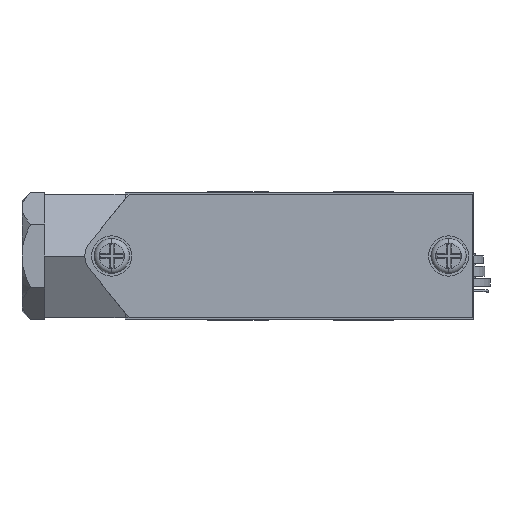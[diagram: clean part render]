
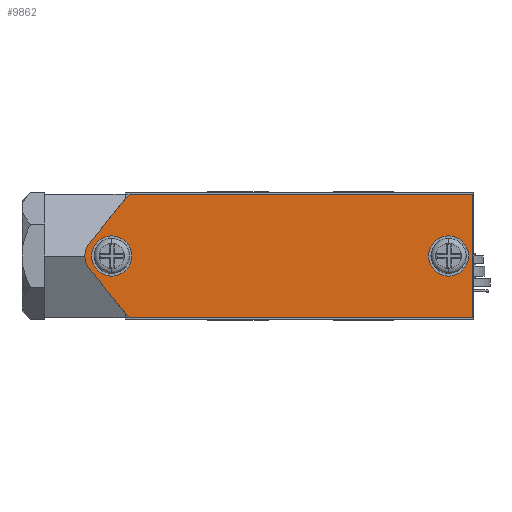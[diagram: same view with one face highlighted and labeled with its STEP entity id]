
A CAD part, front view. The second image highlights one B-rep face of the part: STEP entity #9862.
In plain terms, the highlighted planar face has unit normal (0, -1, 0).
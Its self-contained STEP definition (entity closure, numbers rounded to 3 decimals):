
#710 = PLANE ( 'NONE',  #10620 ) ;
#711 = CARTESIAN_POINT ( 'NONE',  ( 0., 0., 0. ) ) ;
#712 = DIRECTION ( 'NONE',  ( 0., -1., 0. ) ) ;
#713 = DIRECTION ( 'NONE',  ( 0., 0., -1. ) ) ;
#2640 = EDGE_CURVE ( 'NONE', #3810, #3811, #6307, .T. ) ;
#2663 = EDGE_CURVE ( 'NONE', #3574, #3573, #2874, .T. ) ;
#2671 = EDGE_CURVE ( 'NONE', #3812, #3813, #6402, .T. ) ;
#2673 = EDGE_CURVE ( 'NONE', #3811, #3812, #2876, .T. ) ;
#2674 = EDGE_CURVE ( 'NONE', #3809, #3813, #6411, .T. ) ;
#2675 = EDGE_CURVE ( 'NONE', #3578, #3577, #2877, .T. ) ;
#2676 = EDGE_CURVE ( 'NONE', #3810, #3808, #6417, .T. ) ;
#2698 = EDGE_CURVE ( 'NONE', #3808, #3809, #6483, .T. ) ;
#2874 = CIRCLE ( 'NONE', #5628, 4. ) ;
#2876 = CIRCLE ( 'NONE', #5484, 4. ) ;
#2877 = CIRCLE ( 'NONE', #5613, 4. ) ;
#2927 = CIRCLE ( 'NONE', #10102, 4. ) ;
#2929 = CIRCLE ( 'NONE', #10110, 4. ) ;
#3573 = VERTEX_POINT ( 'NONE', #11090 ) ;
#3574 = VERTEX_POINT ( 'NONE', #11091 ) ;
#3577 = VERTEX_POINT ( 'NONE', #11094 ) ;
#3578 = VERTEX_POINT ( 'NONE', #11095 ) ;
#3808 = VERTEX_POINT ( 'NONE', #11326 ) ;
#3809 = VERTEX_POINT ( 'NONE', #11327 ) ;
#3810 = VERTEX_POINT ( 'NONE', #11328 ) ;
#3811 = VERTEX_POINT ( 'NONE', #11329 ) ;
#3812 = VERTEX_POINT ( 'NONE', #11330 ) ;
#3813 = VERTEX_POINT ( 'NONE', #11331 ) ;
#4077 = ORIENTED_EDGE ( 'NONE', *, *, #2671, .T. ) ;
#4086 = ORIENTED_EDGE ( 'NONE', *, *, #2673, .T. ) ;
#4147 = ORIENTED_EDGE ( 'NONE', *, *, #2676, .F. ) ;
#4162 = ORIENTED_EDGE ( 'NONE', *, *, #2674, .F. ) ;
#4166 = ORIENTED_EDGE ( 'NONE', *, *, #2663, .F. ) ;
#4169 = ORIENTED_EDGE ( 'NONE', *, *, #2675, .F. ) ;
#4174 = ORIENTED_EDGE ( 'NONE', *, *, #2698, .F. ) ;
#4198 = ORIENTED_EDGE ( 'NONE', *, *, #7546, .F. ) ;
#4204 = ORIENTED_EDGE ( 'NONE', *, *, #7542, .F. ) ;
#4228 = ORIENTED_EDGE ( 'NONE', *, *, #2640, .T. ) ;
#5482 = VECTOR ( 'NONE', #6309, 1000. ) ;
#5484 = AXIS2_PLACEMENT_3D ( 'NONE', #6392, #6408, #6409 ) ;
#5494 = VECTOR ( 'NONE', #6419, 1000. ) ;
#5607 = VECTOR ( 'NONE', #6404, 1000. ) ;
#5613 = AXIS2_PLACEMENT_3D ( 'NONE', #6410, #6414, #6415 ) ;
#5619 = VECTOR ( 'NONE', #6413, 1000. ) ;
#5628 = AXIS2_PLACEMENT_3D ( 'NONE', #6317, #6378, #6379 ) ;
#6307 = LINE ( 'NONE', #6308, #5482 ) ;
#6308 = CARTESIAN_POINT ( 'NONE',  ( -34.15, 0., 12.25 ) ) ;
#6309 = DIRECTION ( 'NONE',  ( -0.631, 0., -0.776 ) ) ;
#6317 = CARTESIAN_POINT ( 'NONE',  ( -37.6, 0., 0. ) ) ;
#6378 = DIRECTION ( 'NONE',  ( 0., -1., 0. ) ) ;
#6379 = DIRECTION ( 'NONE',  ( 0., 0., -1. ) ) ;
#6392 = CARTESIAN_POINT ( 'NONE',  ( -38.95, 0., 0. ) ) ;
#6402 = LINE ( 'NONE', #6403, #5607 ) ;
#6403 = CARTESIAN_POINT ( 'NONE',  ( -42.054, 0., -2.523 ) ) ;
#6404 = DIRECTION ( 'NONE',  ( 0.631, 0., -0.776 ) ) ;
#6408 = DIRECTION ( 'NONE',  ( 0., -1., 0. ) ) ;
#6409 = DIRECTION ( 'NONE',  ( 0., 0., -1. ) ) ;
#6410 = CARTESIAN_POINT ( 'NONE',  ( 29.4, 0., 0. ) ) ;
#6411 = LINE ( 'NONE', #6412, #5619 ) ;
#6412 = CARTESIAN_POINT ( 'NONE',  ( -34.15, 0., -12.25 ) ) ;
#6413 = DIRECTION ( 'NONE',  ( -1., 0., 0. ) ) ;
#6414 = DIRECTION ( 'NONE',  ( 0., -1., 0. ) ) ;
#6415 = DIRECTION ( 'NONE',  ( 0., 0., -1. ) ) ;
#6417 = LINE ( 'NONE', #6418, #5494 ) ;
#6418 = CARTESIAN_POINT ( 'NONE',  ( -34.15, 0., 12.25 ) ) ;
#6419 = DIRECTION ( 'NONE',  ( 1., 0., 0. ) ) ;
#6483 = LINE ( 'NONE', #6484, #11420 ) ;
#6484 = CARTESIAN_POINT ( 'NONE',  ( 34.15, 0., 12.25 ) ) ;
#6485 = DIRECTION ( 'NONE',  ( 0., 0., -1. ) ) ;
#7542 = EDGE_CURVE ( 'NONE', #3577, #3578, #2927, .T. ) ;
#7546 = EDGE_CURVE ( 'NONE', #3573, #3574, #2929, .T. ) ;
#8659 = EDGE_LOOP ( 'NONE', ( #4166, #4198 ) ) ;
#8660 = EDGE_LOOP ( 'NONE', ( #4169, #4204 ) ) ;
#8661 = EDGE_LOOP ( 'NONE', ( #4174, #4147, #4228, #4086, #4077, #4162 ) ) ;
#9862 = ADVANCED_FACE ( 'NONE', ( #10612, #10615, #10618 ), #710, .T. ) ;
#10102 = AXIS2_PLACEMENT_3D ( 'NONE', #11825, #11826, #11827 ) ;
#10110 = AXIS2_PLACEMENT_3D ( 'NONE', #11837, #11838, #11839 ) ;
#10612 = FACE_BOUND ( 'NONE', #8659, .T. ) ;
#10615 = FACE_BOUND ( 'NONE', #8660, .T. ) ;
#10618 = FACE_OUTER_BOUND ( 'NONE', #8661, .T. ) ;
#10620 = AXIS2_PLACEMENT_3D ( 'NONE', #711, #712, #713 ) ;
#11090 = CARTESIAN_POINT ( 'NONE',  ( -37.6, 0., 4. ) ) ;
#11091 = CARTESIAN_POINT ( 'NONE',  ( -37.6, 0., -4. ) ) ;
#11094 = CARTESIAN_POINT ( 'NONE',  ( 29.4, 0., 4. ) ) ;
#11095 = CARTESIAN_POINT ( 'NONE',  ( 29.4, 0., -4. ) ) ;
#11326 = CARTESIAN_POINT ( 'NONE',  ( 34.15, 0., 12.25 ) ) ;
#11327 = CARTESIAN_POINT ( 'NONE',  ( 34.15, 0., -12.25 ) ) ;
#11328 = CARTESIAN_POINT ( 'NONE',  ( -34.15, 0., 12.25 ) ) ;
#11329 = CARTESIAN_POINT ( 'NONE',  ( -42.054, 0., 2.523 ) ) ;
#11330 = CARTESIAN_POINT ( 'NONE',  ( -42.054, 0., -2.523 ) ) ;
#11331 = CARTESIAN_POINT ( 'NONE',  ( -34.15, 0., -12.25 ) ) ;
#11420 = VECTOR ( 'NONE', #6485, 1000. ) ;
#11825 = CARTESIAN_POINT ( 'NONE',  ( 29.4, 0., 0. ) ) ;
#11826 = DIRECTION ( 'NONE',  ( 0., -1., 0. ) ) ;
#11827 = DIRECTION ( 'NONE',  ( 0., 0., -1. ) ) ;
#11837 = CARTESIAN_POINT ( 'NONE',  ( -37.6, 0., 0. ) ) ;
#11838 = DIRECTION ( 'NONE',  ( 0., -1., 0. ) ) ;
#11839 = DIRECTION ( 'NONE',  ( 0., 0., -1. ) ) ;
